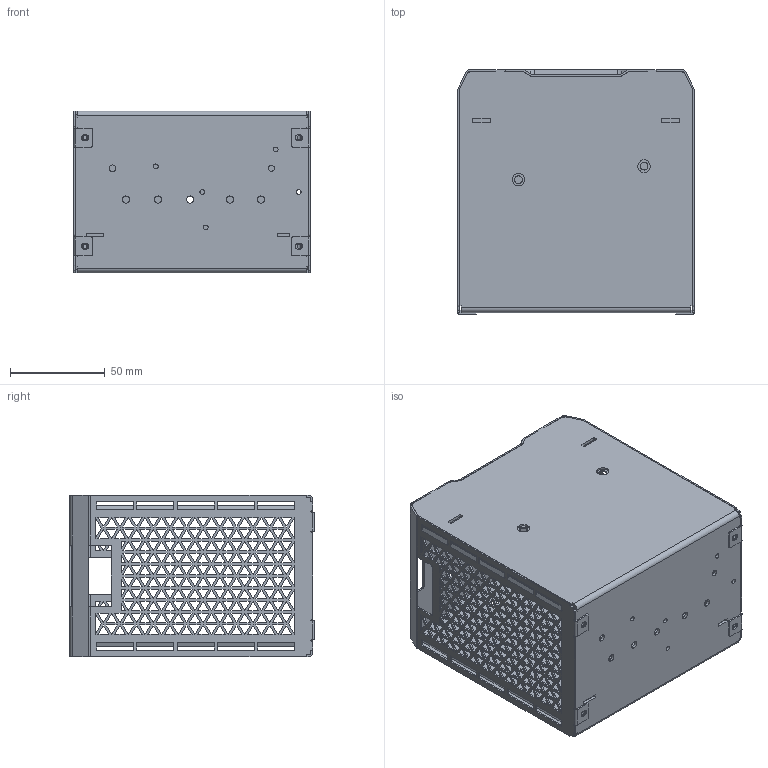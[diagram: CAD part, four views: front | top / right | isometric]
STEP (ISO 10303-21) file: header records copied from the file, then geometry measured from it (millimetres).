
FILE_DESCRIPTION (( 'STEP AP203' ), '1' );
FILE_NAME ('ZDR5-480 - DISSOLVIDO.STEP', '2026-07-27T11:03:56', ( '' ), ( '' ), 'SwSTEP 2.0', 'SolidWorks 2019', '' );
FILE_SCHEMA (( 'CONFIG_CONTROL_DESIGN' ));
Length unit declared in the file: millimetre
Products named in the file (1): ZDR5-480 - DISSOLVIDO
Bounding box: 125 x 129.45 x 85.5 mm (x, y, z)
Volume: 80034.2 mm3; surface area: 138806.8 mm2
Topology: 2 solids, 2 shells, 1954 faces, 5790 edges, 3844 vertices
Faces by surface type: plane 1748, cylinder 202, bspline 4
Entity records: 66421 total; most frequent: CARTESIAN_POINT 11717, ORIENTED_EDGE 11580, DIRECTION 10060, EDGE_CURVE 5790, LINE 5374, VECTOR 5374, VERTEX_POINT 3844, EDGE_LOOP 2978
